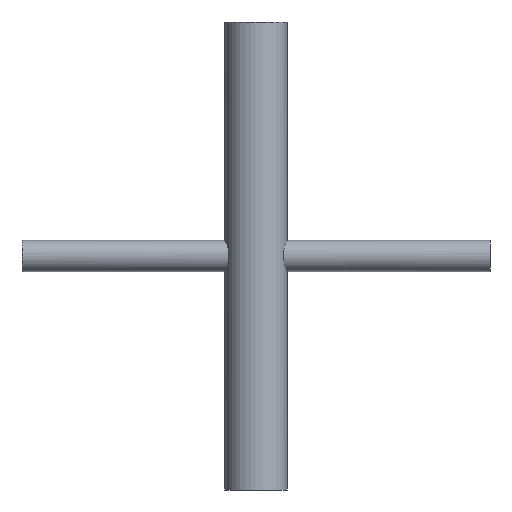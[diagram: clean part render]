
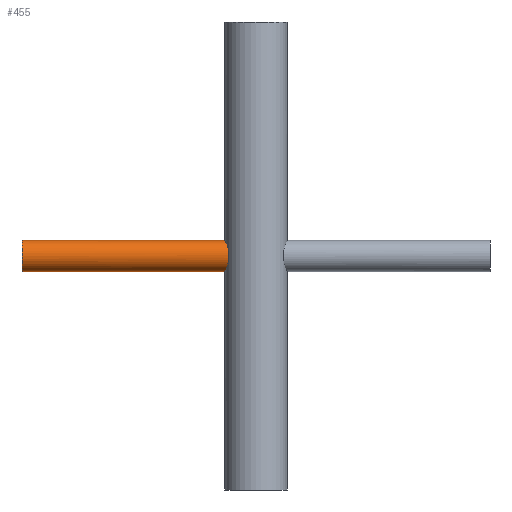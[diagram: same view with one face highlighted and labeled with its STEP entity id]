
A CAD part, front view. The second image highlights one B-rep face of the part: STEP entity #455.
In plain terms, the highlighted cylindrical face has radius 3.175 mm (diameter 6.35 mm), a partial arc.
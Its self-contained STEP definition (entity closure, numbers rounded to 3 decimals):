
#10 = CARTESIAN_POINT ( 'NONE',  ( -5.884, -2.392, -2.098 ) ) ;
#11 = CARTESIAN_POINT ( 'NONE',  ( -5.725, -2.751, 1.599 ) ) ;
#24 = CARTESIAN_POINT ( 'NONE',  ( -6.298, -0.84, -3.069 ) ) ;
#33 = CARTESIAN_POINT ( 'NONE',  ( -47.625, 0., -3.175 ) ) ;
#57 = EDGE_CURVE ( 'NONE', #220, #98, #244, .T. ) ;
#65 = CARTESIAN_POINT ( 'NONE',  ( -5.724, -2.752, -1.597 ) ) ;
#67 = CARTESIAN_POINT ( 'NONE',  ( -5.885, -2.391, 2.099 ) ) ;
#76 = CARTESIAN_POINT ( 'NONE',  ( -47.625, 0., 0. ) ) ;
#82 = CIRCLE ( 'NONE', #403, 3.175 ) ;
#96 = CARTESIAN_POINT ( 'NONE',  ( -47.625, 0., 0. ) ) ;
#98 = VERTEX_POINT ( 'NONE', #360 ) ;
#124 = CARTESIAN_POINT ( 'NONE',  ( -5.592, -3.01, -1.032 ) ) ;
#125 = CARTESIAN_POINT ( 'NONE',  ( -6.048, -1.944, 2.519 ) ) ;
#146 = DIRECTION ( 'NONE',  ( 1., 0., 0. ) ) ;
#150 = DIRECTION ( 'NONE',  ( 1., 0., 0. ) ) ;
#177 = CARTESIAN_POINT ( 'NONE',  ( -5.511, -3.154, -0.42 ) ) ;
#180 = CARTESIAN_POINT ( 'NONE',  ( -6.192, -1.42, 2.847 ) ) ;
#200 = DIRECTION ( 'NONE',  ( 1., 0., 0. ) ) ;
#203 = VECTOR ( 'NONE', #200, 1000. ) ;
#208 = ORIENTED_EDGE ( 'NONE', *, *, #509, .T. ) ;
#212 = DIRECTION ( 'NONE',  ( 0., 0., -1. ) ) ;
#216 = DIRECTION ( 'NONE',  ( 0., 0., -1. ) ) ;
#220 = VERTEX_POINT ( 'NONE', #687 ) ;
#222 = LINE ( 'NONE', #672, #519 ) ;
#241 = CARTESIAN_POINT ( 'NONE',  ( -6.192, -1.422, -2.846 ) ) ;
#244 = B_SPLINE_CURVE_WITH_KNOTS ( 'NONE', 3,
 ( #655, #303, #478, #246, #596, #180, #539, #125, #475, #67, #415, #11, #359, #708, #301, #652, #245, #594, #177, #538, #124, #472, #65, #414, #10, #355, #706, #300, #241, #714, #24, #249, #657, #307 ),
 .UNSPECIFIED., .F., .F.,
 ( 4, 2, 2, 2, 2, 2, 2, 2, 2, 2, 2, 2, 2, 2, 2, 2, 4 ),
 ( 0., 0.001, 0.001, 0.002, 0.003, 0.003, 0.004, 0.004, 0.005, 0.006, 0.006, 0.007, 0.008, 0.008, 0.009, 0.009, 0.01 ),
 .UNSPECIFIED. ) ;
#245 = CARTESIAN_POINT ( 'NONE',  ( -5.499, -3.175, 0.217 ) ) ;
#246 = CARTESIAN_POINT ( 'NONE',  ( -6.298, -0.834, 3.071 ) ) ;
#249 = CARTESIAN_POINT ( 'NONE',  ( -6.339, -0.424, -3.154 ) ) ;
#264 = ORIENTED_EDGE ( 'NONE', *, *, #463, .F. ) ;
#278 = ORIENTED_EDGE ( 'NONE', *, *, #57, .F. ) ;
#300 = CARTESIAN_POINT ( 'NONE',  ( -6.147, -1.604, -2.748 ) ) ;
#301 = CARTESIAN_POINT ( 'NONE',  ( -5.559, -3.07, 0.836 ) ) ;
#303 = CARTESIAN_POINT ( 'NONE',  ( -6.35, -0.214, 3.175 ) ) ;
#307 = CARTESIAN_POINT ( 'NONE',  ( -6.35, 0., -3.175 ) ) ;
#318 = DIRECTION ( 'NONE',  ( 1., 0., 0. ) ) ;
#336 = FACE_OUTER_BOUND ( 'NONE', #474, .T. ) ;
#355 = CARTESIAN_POINT ( 'NONE',  ( -5.993, -2.104, -2.386 ) ) ;
#359 = CARTESIAN_POINT ( 'NONE',  ( -5.676, -2.848, 1.419 ) ) ;
#360 = CARTESIAN_POINT ( 'NONE',  ( -6.35, 0., -3.175 ) ) ;
#401 = VERTEX_POINT ( 'NONE', #33 ) ;
#403 = AXIS2_PLACEMENT_3D ( 'NONE', #96, #150, #216 ) ;
#414 = CARTESIAN_POINT ( 'NONE',  ( -5.829, -2.523, -1.938 ) ) ;
#415 = CARTESIAN_POINT ( 'NONE',  ( -5.829, -2.521, 1.94 ) ) ;
#455 = ADVANCED_FACE ( 'NONE', ( #336 ), #740, .T. ) ;
#463 = EDGE_CURVE ( 'NONE', #691, #220, #516, .T. ) ;
#472 = CARTESIAN_POINT ( 'NONE',  ( -5.676, -2.849, -1.416 ) ) ;
#473 = AXIS2_PLACEMENT_3D ( 'NONE', #76, #318, #212 ) ;
#474 = EDGE_LOOP ( 'NONE', ( #264, #208, #515, #278 ) ) ;
#475 = CARTESIAN_POINT ( 'NONE',  ( -5.994, -2.103, 2.387 ) ) ;
#478 = CARTESIAN_POINT ( 'NONE',  ( -6.339, -0.423, 3.154 ) ) ;
#508 = CARTESIAN_POINT ( 'NONE',  ( -47.625, 0., 3.175 ) ) ;
#509 = EDGE_CURVE ( 'NONE', #691, #401, #82, .T. ) ;
#515 = ORIENTED_EDGE ( 'NONE', *, *, #656, .T. ) ;
#516 = LINE ( 'NONE', #624, #203 ) ;
#519 = VECTOR ( 'NONE', #146, 1000. ) ;
#538 = CARTESIAN_POINT ( 'NONE',  ( -5.558, -3.072, -0.83 ) ) ;
#539 = CARTESIAN_POINT ( 'NONE',  ( -6.147, -1.602, 2.749 ) ) ;
#594 = CARTESIAN_POINT ( 'NONE',  ( -5.499, -3.175, -0.206 ) ) ;
#596 = CARTESIAN_POINT ( 'NONE',  ( -6.268, -1.037, 3.008 ) ) ;
#624 = CARTESIAN_POINT ( 'NONE',  ( -47.625, 0., 3.175 ) ) ;
#652 = CARTESIAN_POINT ( 'NONE',  ( -5.512, -3.153, 0.425 ) ) ;
#655 = CARTESIAN_POINT ( 'NONE',  ( -6.35, 0., 3.175 ) ) ;
#656 = EDGE_CURVE ( 'NONE', #401, #98, #222, .T. ) ;
#657 = CARTESIAN_POINT ( 'NONE',  ( -6.35, -0.214, -3.175 ) ) ;
#672 = CARTESIAN_POINT ( 'NONE',  ( -47.625, 0., -3.175 ) ) ;
#687 = CARTESIAN_POINT ( 'NONE',  ( -6.35, 0., 3.175 ) ) ;
#691 = VERTEX_POINT ( 'NONE', #508 ) ;
#706 = CARTESIAN_POINT ( 'NONE',  ( -6.047, -1.947, -2.516 ) ) ;
#708 = CARTESIAN_POINT ( 'NONE',  ( -5.593, -3.007, 1.039 ) ) ;
#714 = CARTESIAN_POINT ( 'NONE',  ( -6.267, -1.041, -3.007 ) ) ;
#740 = CYLINDRICAL_SURFACE ( 'NONE', #473, 3.175 ) ;
